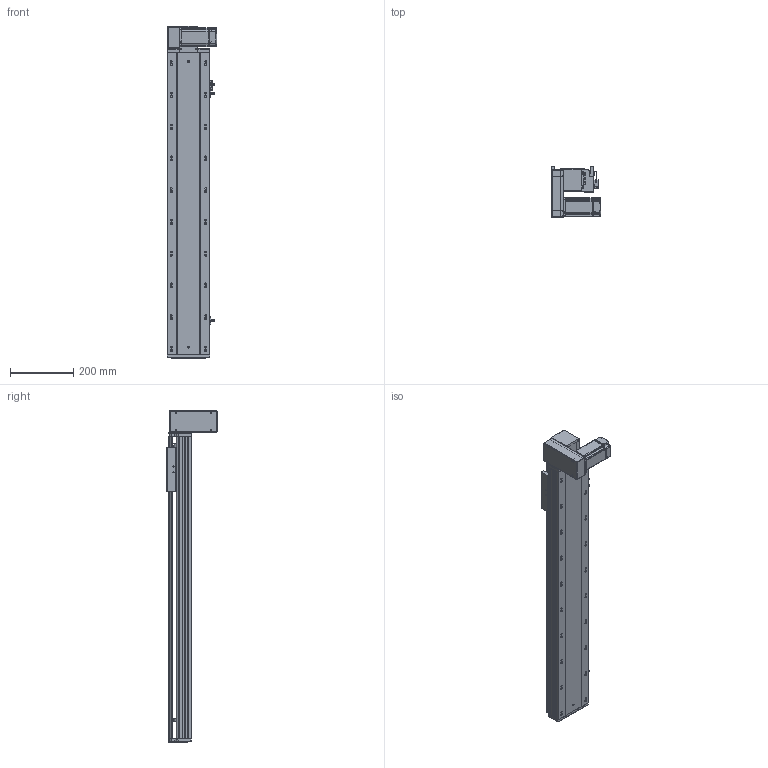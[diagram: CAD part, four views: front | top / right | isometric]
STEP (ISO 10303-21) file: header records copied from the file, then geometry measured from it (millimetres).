
FILE_DESCRIPTION (( 'STEP AP203' ), '1' );
FILE_NAME ('RY140-T-300-DL.SLDASM_700.step', '2021-03-01T06:05:59', ( '盈信电脑' ), ( '东莞市道滘镇水果街19号' ), 'SwSTEP 2.0', 'SolidWorks 2012', '' );
FILE_SCHEMA (( 'CONFIG_CONTROL_DESIGN' ));
Length unit declared in the file: millimetre
Products named in the file (18): 滅袉蝶18-10; RY140-T翋肮謫裔啣; RY140-T萇儂欶; RY140-T-300-DL.SLDASM_700; RY120-T主同步轮轴承压盖; RY120-T蹟翐M4; 侂狟400W侜督萇儂; RY140-T翋肮祭謫盓傅釱; RY140-T萇儂假蚾啣; 15; RY120-T肮祭湍揤踡輸1; RY120外置感应片(140共用）; RY140綴裔啣; RY120-T肮祭湍揤踡輸2; 覜茼ん672; RY140-T-300-DL倰第奻裔啣_700; RY140-T-300-DL倰第菁釱_700; RY140肮祭謫臏賑輸
Assembly tree (23 placements, depth 3):
  RY140-T-300-DL.SLDASM_700
    RY140-T-300-DL倰第菁釱_700
    RY140肮祭謫臏賑輸
    RY140-T-300-DL倰第奻裔啣_700
    RY140綴裔啣
    覜茼ん672  x3
    RY120外置感应片(140共用）
    RY120-T肮祭湍揤踡輸2
    RY120-T肮祭湍揤踡輸1
    RY140-T翋肮祭謫盓傅釱
    RY140-T萇儂假蚾啣
    侂狟400W侜督萇儂
      15
    RY120-T主同步轮轴承压盖
    RY120-T蹟翐M4  x4
    RY140-T萇儂欶
    滅袉蝶18-10  x2
    RY140-T翋肮謫裔啣
Bounding box: 157 x 158.5 x 1046 mm (x, y, z)
Volume: 3272867.5 mm3; surface area: 1232439.7 mm2
Topology: 22 solids, 22 shells, 2686 faces, 7402 edges, 4768 vertices
Faces by surface type: plane 1389, cylinder 999, cone 198, bspline 100
Entity records: 85700 total; most frequent: CARTESIAN_POINT 21075, ORIENTED_EDGE 13332, DIRECTION 12584, EDGE_CURVE 6666, VERTEX_POINT 4367, LINE 4230, VECTOR 4230, AXIS2_PLACEMENT_3D 4177
